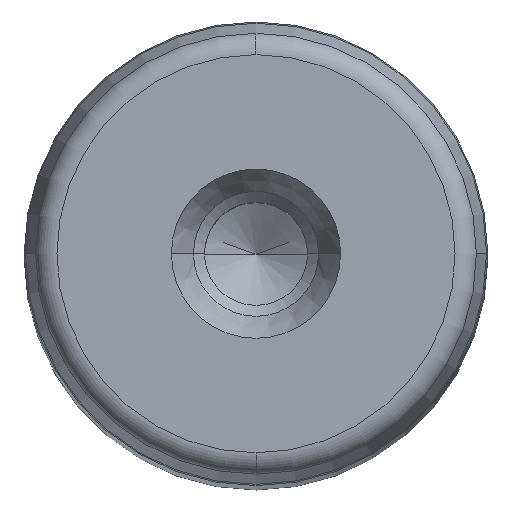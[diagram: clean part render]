
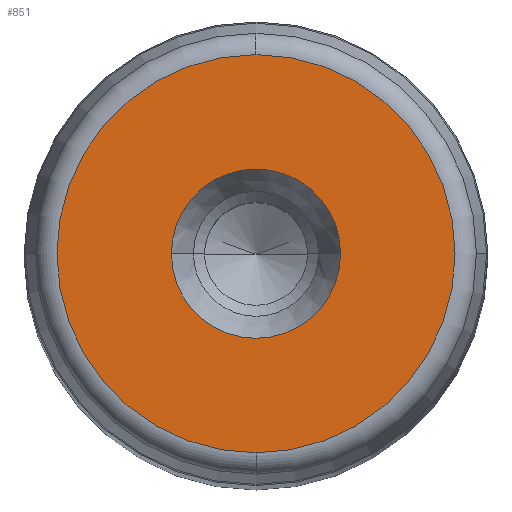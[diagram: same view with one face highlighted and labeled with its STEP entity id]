
A CAD part, top view. The second image highlights one B-rep face of the part: STEP entity #851.
In plain terms, the highlighted planar face has unit normal (0, 0, 1) as drawn and (0, 1, 0) by its records, which use the part's own axes.
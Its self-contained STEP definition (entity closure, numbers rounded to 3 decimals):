
#281=CARTESIAN_POINT('',(11.5,355.0,0.0));
#282=VERTEX_POINT('',#281);
#289=CARTESIAN_POINT('',(-11.5,355.0,0.));
#290=VERTEX_POINT('',#289);
#291=CARTESIAN_POINT('',(0.0,355.0,0.0));
#292=DIRECTION('',(0.0,1.0,0.0));
#293=DIRECTION('',(1.0,0.0,0.0));
#294=AXIS2_PLACEMENT_3D('',#291,#292,#293);
#295=CIRCLE('',#294,11.5);
#296=EDGE_CURVE('',#282,#290,#295,.T.);
#313=CARTESIAN_POINT('',(0.0,355.,27.054));
#314=VERTEX_POINT('',#313);
#324=CARTESIAN_POINT('',(0.,355.,-27.054));
#325=VERTEX_POINT('',#324);
#326=CARTESIAN_POINT('',(0.0,355.,0.0));
#327=DIRECTION('',(0.0,1.0,0.0));
#328=DIRECTION('',(1.0,0.0,0.0));
#329=AXIS2_PLACEMENT_3D('',#326,#327,#328);
#330=CIRCLE('',#329,27.054);
#331=EDGE_CURVE('',#325,#314,#330,.T.);
#812=CARTESIAN_POINT('',(27.054,355.,0.0));
#813=VERTEX_POINT('',#812);
#814=CARTESIAN_POINT('',(0.0,355.,0.0));
#815=DIRECTION('',(0.0,1.0,0.0));
#816=DIRECTION('',(1.0,0.0,0.0));
#817=AXIS2_PLACEMENT_3D('',#814,#815,#816);
#818=CIRCLE('',#817,27.054);
#819=EDGE_CURVE('',#813,#325,#818,.T.);
#821=CARTESIAN_POINT('',(0.0,355.,0.0));
#822=DIRECTION('',(0.0,1.0,0.0));
#823=DIRECTION('',(1.0,0.0,0.0));
#824=AXIS2_PLACEMENT_3D('',#821,#822,#823);
#825=CIRCLE('',#824,27.054);
#826=EDGE_CURVE('',#314,#813,#825,.T.);
#831=CARTESIAN_POINT('',(-29.76,355.0,-29.76));
#832=DIRECTION('',(0.0,1.0,0.0));
#833=DIRECTION('',(0.0,0.0,1.0));
#834=AXIS2_PLACEMENT_3D('',#831,#832,#833);
#835=PLANE('',#834);
#836=ORIENTED_EDGE('',*,*,#819,.T.);
#837=ORIENTED_EDGE('',*,*,#331,.T.);
#838=ORIENTED_EDGE('',*,*,#826,.T.);
#839=EDGE_LOOP('',(#836,#837,#838));
#840=FACE_OUTER_BOUND('',#839,.T.);
#841=ORIENTED_EDGE('',*,*,#296,.F.);
#842=CARTESIAN_POINT('',(0.0,355.0,0.0));
#843=DIRECTION('',(0.0,1.0,0.0));
#844=DIRECTION('',(1.0,0.0,0.0));
#845=AXIS2_PLACEMENT_3D('',#842,#843,#844);
#846=CIRCLE('',#845,11.5);
#847=EDGE_CURVE('',#290,#282,#846,.T.);
#848=ORIENTED_EDGE('',*,*,#847,.F.);
#849=EDGE_LOOP('',(#841,#848));
#850=FACE_BOUND('',#849,.T.);
#851=ADVANCED_FACE('',(#840,#850),#835,.T.);
